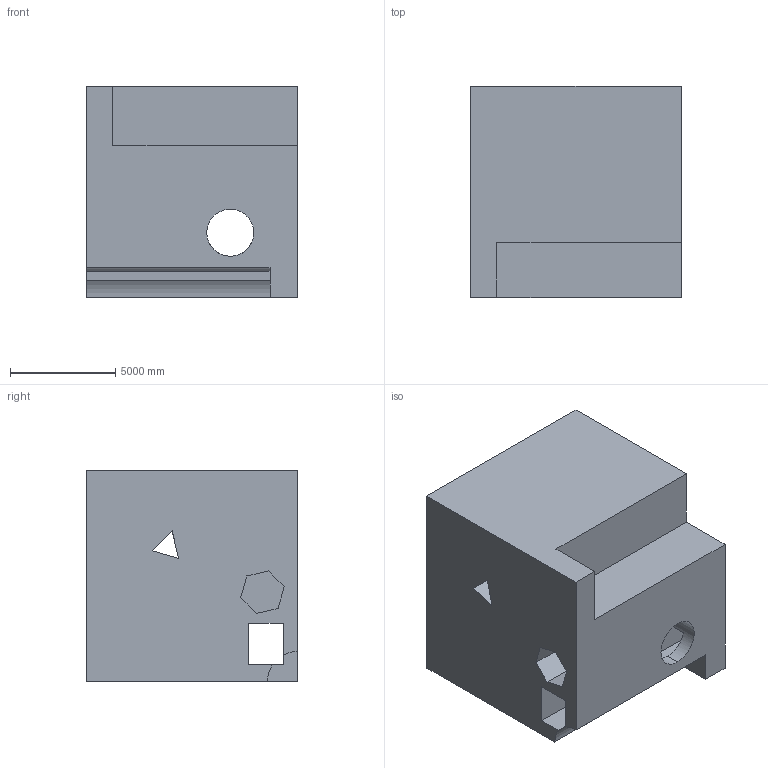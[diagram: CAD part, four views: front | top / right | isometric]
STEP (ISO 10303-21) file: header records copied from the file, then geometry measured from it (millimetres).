
FILE_DESCRIPTION (( 'STEP AP203' ), '1' );
FILE_NAME ('1667.STEP', '2022-08-19T11:32:07', ( 'user' ), ( '' ), 'SwSTEP 2.0', 'SolidWorks 2021', '' );
FILE_SCHEMA (( 'CONFIG_CONTROL_DESIGN' ));
Length unit declared in the file: centimetre
Products named in the file (1): 1667
Bounding box: 10000 x 10000 x 10000 mm (x, y, z)
Volume: 798180931858 mm3; surface area: 807878504.9 mm2
Topology: 1 solids, 1 shells, 39 faces, 120 edges, 80 vertices
Faces by surface type: plane 35, cylinder 4
Entity records: 1423 total; most frequent: CARTESIAN_POINT 240, ORIENTED_EDGE 240, DIRECTION 212, EDGE_CURVE 120, LINE 108, VECTOR 108, VERTEX_POINT 80, AXIS2_PLACEMENT_3D 52
